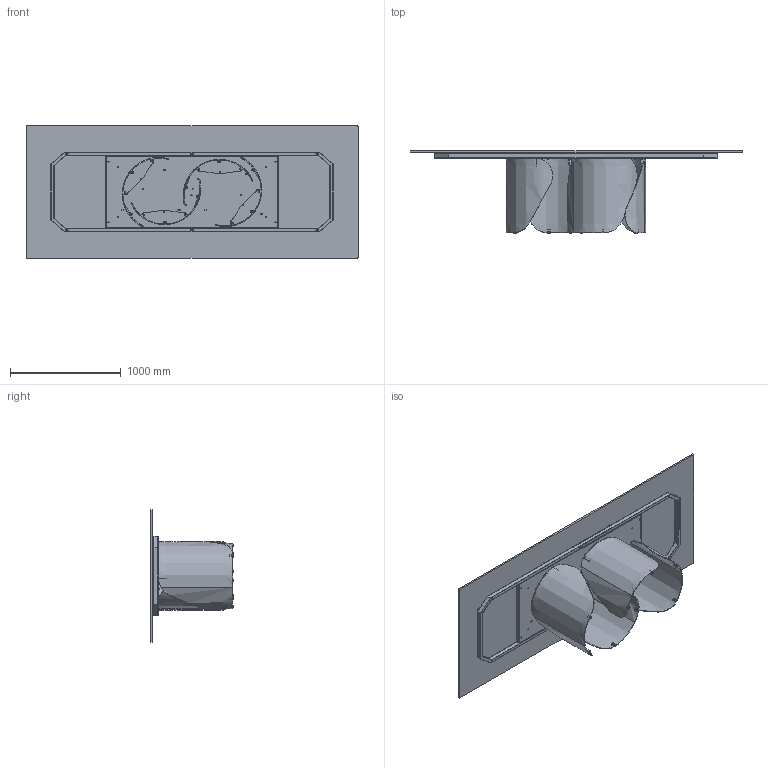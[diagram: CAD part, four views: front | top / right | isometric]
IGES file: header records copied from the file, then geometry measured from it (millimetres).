
Start section: SolidWorks IGES file using analytic representation for surfaces
Global section: file name: Y:\eforma\TECNICO\SOLIDWORKS\E-FORMA\1-TAVOLI\ONDA\02 parts\ON24G.IGS; native system: SolidWorks 2022; preprocessor: SolidWorks 2022; author: eforma.tech; date: 240806.154305; units: millimetre
Bounding box: 3000 x 741 x 1200 mm (x, y, z)
Volume: 71615777.4 mm3; surface area: 15930426.3 mm2
Topology: 83 solids, 83 shells, 1920 faces, 4392 edges, 2672 vertices
Faces by surface type: revolution 1120, plane 720, bspline 80
